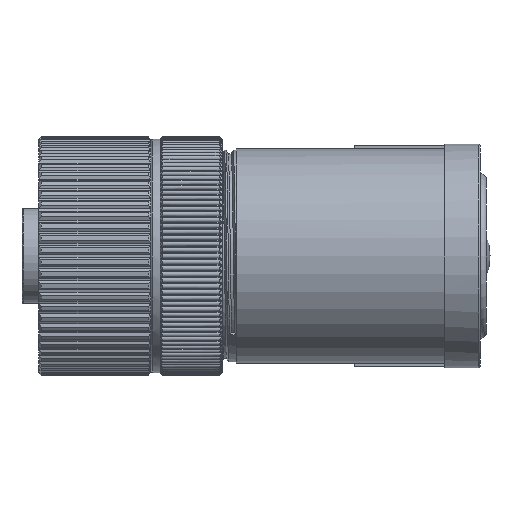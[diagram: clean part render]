
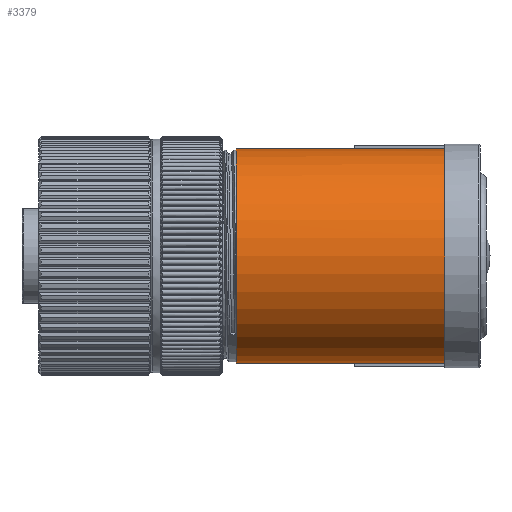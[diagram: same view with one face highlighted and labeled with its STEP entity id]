
A CAD part, left-side view. The second image highlights one B-rep face of the part: STEP entity #3379.
In plain terms, the highlighted cylindrical face has radius 9 mm (diameter 18 mm), a full revolution.
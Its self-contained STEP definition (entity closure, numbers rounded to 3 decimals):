
#585=FACE_BOUND('',#6063,.T.);
#586=FACE_BOUND('',#6064,.T.);
#909=CYLINDRICAL_SURFACE('',#19668,9.);
#1372=LINE('',#28782,#2375);
#1373=LINE('',#28808,#2376);
#1374=LINE('',#28810,#2377);
#2375=VECTOR('',#22276,1.);
#2376=VECTOR('',#22277,1.);
#2377=VECTOR('',#22278,1.);
#3379=ADVANCED_FACE('',(#585,#586),#909,.T.);
#6063=EDGE_LOOP('',(#9018,#9019,#9020,#9021,#9022));
#6064=EDGE_LOOP('',(#9023));
#7454=CIRCLE('',#19665,9.);
#7455=CIRCLE('',#19667,9.);
#9018=ORIENTED_EDGE('',*,*,#16230,.F.);
#9019=ORIENTED_EDGE('',*,*,#16231,.T.);
#9020=ORIENTED_EDGE('',*,*,#16232,.T.);
#9021=ORIENTED_EDGE('',*,*,#16233,.T.);
#9022=ORIENTED_EDGE('',*,*,#16234,.F.);
#9023=ORIENTED_EDGE('',*,*,#16226,.F.);
#14364=VERTEX_POINT('',#28766);
#14367=VERTEX_POINT('',#28783);
#14368=VERTEX_POINT('',#28784);
#14369=VERTEX_POINT('',#28807);
#14370=VERTEX_POINT('',#28809);
#14371=VERTEX_POINT('',#28811);
#16226=EDGE_CURVE('',#14364,#14364,#7454,.T.);
#16230=EDGE_CURVE('',#14367,#14368,#1372,.T.);
#16231=EDGE_CURVE('',#14367,#14369,#18839,.T.);
#16232=EDGE_CURVE('',#14369,#14370,#1373,.T.);
#16233=EDGE_CURVE('',#14370,#14371,#1374,.T.);
#16234=EDGE_CURVE('',#14368,#14371,#7455,.T.);
#18839=B_SPLINE_CURVE_WITH_KNOTS('',3,(#28785,#28786,#28787,#28788,#28789,
#28790,#28791,#28792,#28793,#28794,#28795,#28796,#28797,#28798,#28799,#28800,
#28801,#28802,#28803,#28804,#28805,#28806),.UNSPECIFIED.,.F.,.F.,(4,2,2,
2,2,2,2,2,2,2,4),(0.,0.062,0.125,0.25,0.375,0.5,0.625,0.75,
0.875,0.938,1.),.UNSPECIFIED.);
#19665=AXIS2_PLACEMENT_3D('',#28765,#22271,#22272);
#19667=AXIS2_PLACEMENT_3D('',#28812,#22279,#22280);
#19668=AXIS2_PLACEMENT_3D('',#28813,#22281,#22282);
#22271=DIRECTION('',(0.,1.,0.));
#22272=DIRECTION('',(-1.,0.,0.));
#22276=DIRECTION('',(0.,-1.,0.));
#22277=DIRECTION('',(0.,-1.,0.));
#22278=DIRECTION('',(0.,-1.,0.));
#22279=DIRECTION('',(0.,-1.,0.));
#22280=DIRECTION('',(1.,0.,0.));
#22281=DIRECTION('',(0.,1.,0.));
#22282=DIRECTION('',(1.,0.,0.));
#28765=CARTESIAN_POINT('',(0.,-18.,0.));
#28766=CARTESIAN_POINT('',(-9.,-18.,0.));
#28782=CARTESIAN_POINT('',(1.338,-27.9,8.9));
#28783=CARTESIAN_POINT('',(1.338,-27.919,8.9));
#28784=CARTESIAN_POINT('',(1.338,-35.5,8.9));
#28785=CARTESIAN_POINT('',(1.338,-27.919,8.9));
#28786=CARTESIAN_POINT('',(1.328,-27.225,8.902));
#28787=CARTESIAN_POINT('',(1.804,-26.649,8.828));
#28788=CARTESIAN_POINT('',(2.643,-25.599,8.614));
#28789=CARTESIAN_POINT('',(3.088,-25.112,8.468));
#28790=CARTESIAN_POINT('',(4.41,-23.682,7.904));
#28791=CARTESIAN_POINT('',(5.294,-22.775,7.358));
#28792=CARTESIAN_POINT('',(6.877,-21.152,5.905));
#28793=CARTESIAN_POINT('',(7.604,-20.414,4.974));
#28794=CARTESIAN_POINT('',(8.67,-19.334,2.719));
#28795=CARTESIAN_POINT('',(8.998,-19.002,1.365));
#28796=CARTESIAN_POINT('',(9.002,-18.998,-1.34));
#28797=CARTESIAN_POINT('',(8.676,-19.327,-2.698));
#28798=CARTESIAN_POINT('',(7.616,-20.402,-4.955));
#28799=CARTESIAN_POINT('',(6.891,-21.138,-5.889));
#28800=CARTESIAN_POINT('',(5.305,-22.763,-7.35));
#28801=CARTESIAN_POINT('',(4.42,-23.672,-7.898));
#28802=CARTESIAN_POINT('',(3.101,-25.096,-8.462));
#28803=CARTESIAN_POINT('',(2.658,-25.582,-8.609));
#28804=CARTESIAN_POINT('',(1.822,-26.625,-8.824));
#28805=CARTESIAN_POINT('',(1.338,-27.204,-8.9));
#28806=CARTESIAN_POINT('',(1.338,-27.9,-8.9));
#28807=CARTESIAN_POINT('',(1.338,-27.9,-8.9));
#28808=CARTESIAN_POINT('',(1.338,-27.9,-8.9));
#28809=CARTESIAN_POINT('',(1.338,-27.919,-8.9));
#28810=CARTESIAN_POINT('',(1.338,-27.9,-8.9));
#28811=CARTESIAN_POINT('',(1.338,-35.5,-8.9));
#28812=CARTESIAN_POINT('',(0.,-35.5,0.));
#28813=CARTESIAN_POINT('',(0.,-17.5,0.));
